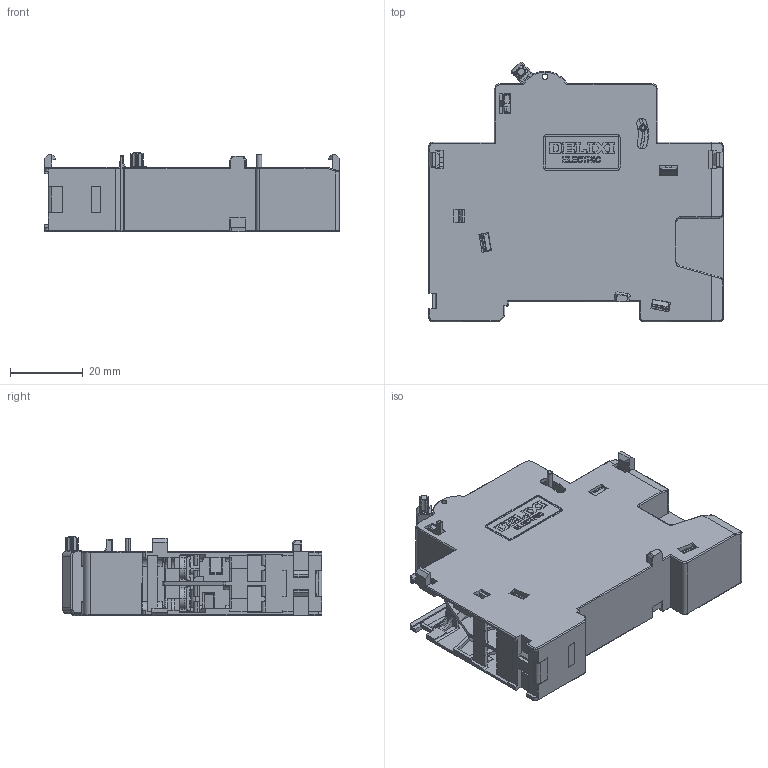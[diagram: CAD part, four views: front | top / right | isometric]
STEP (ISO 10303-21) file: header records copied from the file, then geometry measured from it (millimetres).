
FILE_DESCRIPTION((''),'2;1');
FILE_NAME('2297007900_SW0001','2023-11-08T',('dufeng.zhai'),(''),'PRO/ENGINEER BY PARAMETRIC TECHNOLOGY CORPORATION, 2015440','PRO/ENGINEER BY PARAMETRIC TECHNOLOGY CORPORATION, 2015440','');
FILE_SCHEMA(('CONFIG_CONTROL_DESIGN'));
Products named in the file (1): 2297007900_SW0001
Bounding box: 80.8 x 71.31 x 21.85 mm (x, y, z)
Volume: 59324.7 mm3; surface area: 36879 mm2
Topology: 1 solids, 1 shells, 2655 faces, 7533 edges, 4819 vertices
Faces by surface type: plane 1712, cylinder 628, cone 90, bspline 71, torus 68, sphere 43, extrusion 43
Entity records: 92482 total; most frequent: CARTESIAN_POINT 23781, ORIENTED_EDGE 15062, DIRECTION 13442, EDGE_CURVE 7531, VECTOR 5614, LINE 5571, VERTEX_POINT 4819, AXIS2_PLACEMENT_3D 3914
